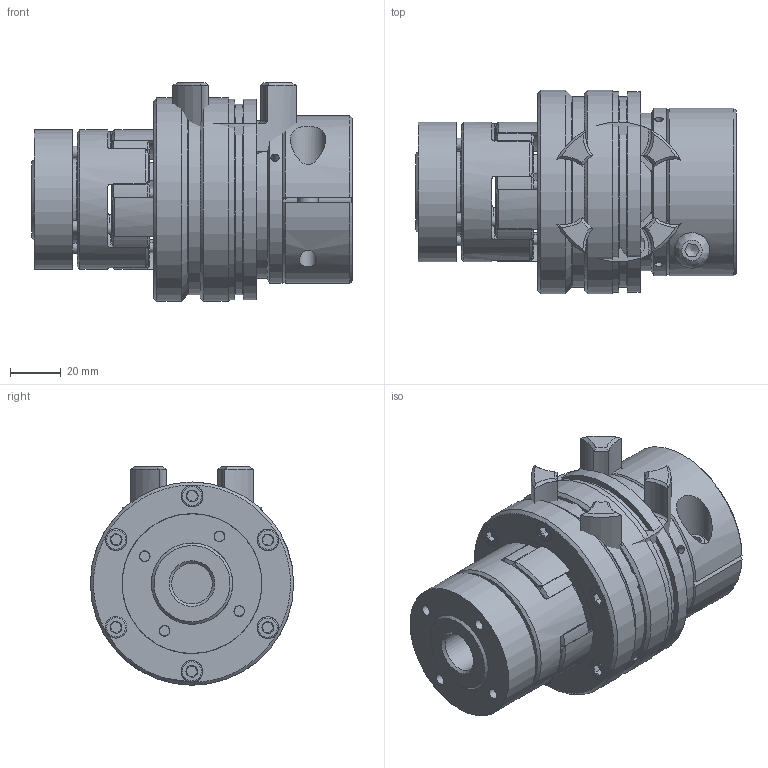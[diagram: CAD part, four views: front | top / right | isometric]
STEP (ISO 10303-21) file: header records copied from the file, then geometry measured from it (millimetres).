
FILE_DESCRIPTION( ( 'Unknown' ), '1' );
FILE_NAME( 'C:/Dokumente und Einstellungen/Sven/Desktop/hp kbk/E-AK/KBK EAK-24-113.stp', 'Unknown', ( 'Unknown' ), ( 'Unknown' ), 'XStep 1.0', 'Unknown', ' ' );
FILE_SCHEMA( ( 'automotive_design' ) );
Length unit declared in the file: millimetre
Products named in the file (17): Assem1; Assem2; ball_bearing_-_6007_0_01_0; ball_bearing_-_6007_0_02_0; ball_bearing_-_6007_0_03_0; Stellring 60_0; Druckring 60_0; Flansch 60_0; a_35_0; Elastomerflansch 24_0; Zahnkranz_24_Standard_0; ISO EN DIN 4762_M5x20_0; KBE 3 - 24_Nabe; KBE3-24_Druckring_0; KBK L-K-60 Grundkörper_0; Klemmnabe 60_0; schraube_iso_7380-m8x25-12_9_0
Bounding box: 126.3 x 80 x 86 mm (x, y, z)
Volume: 735175.5 mm3; surface area: 280342.3 mm2
Topology: 42 solids, 42 shells, 1050 faces, 2271 edges, 1387 vertices
Faces by surface type: cone 337, cylinder 332, plane 304, torus 75, bspline 2
Full cylindrical faces by diameter (mm): 2.5 x4, 3.242 x6, 4 x22, 4.134 x12, 4.2 x12, 5 x11, 5.2 x12, 5.5 x8, 6.647 x2, 8 x2, 8.5 x25, 9.5 x8, 14 x2, 15 x2, 16 x2, 27 x4, 30 x4, 32 x2, 33 x2, 34.625 x2, 35 x7, 43.7 x6, 44 x2, 46 x4, 46.5 x2, 53.6 x6, 55 x6, 61.3 x2, 62 x7, 66 x2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
Entity records: 12167 total; most frequent: CARTESIAN_POINT 2892, DIRECTION 1988, ORIENTED_EDGE 1554, AXIS2_PLACEMENT_3D 932, EDGE_CURVE 777, EDGE_LOOP 648, VERTEX_POINT 548, FACE_OUTER_BOUND 520
